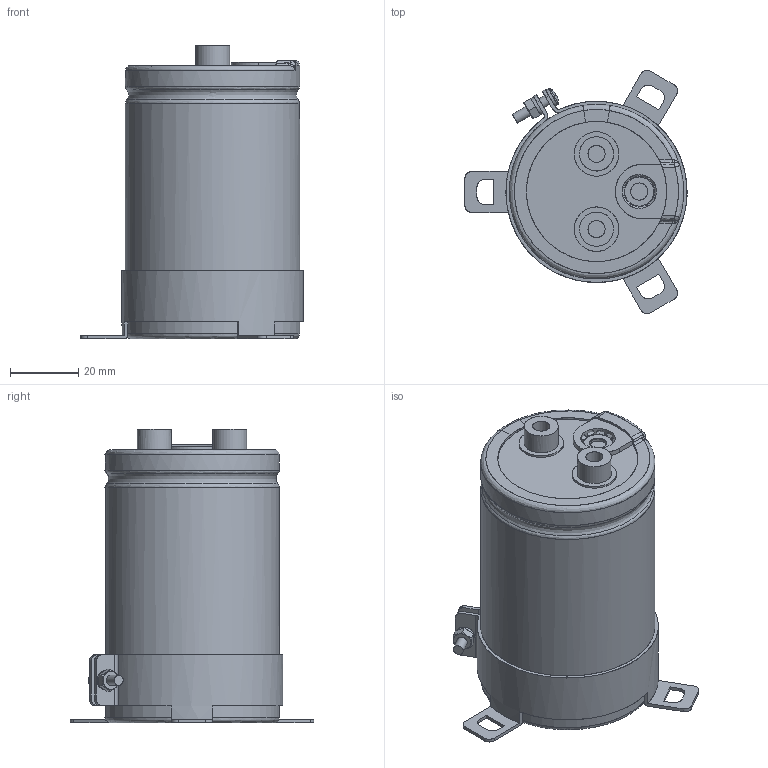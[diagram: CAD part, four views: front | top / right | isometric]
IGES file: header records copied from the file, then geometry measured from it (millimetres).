
Start section: JAMA-IS VERSION  1.0
Bounding box: 65 x 71.22 x 86 mm (x, y, z)
Surface area: 52900 mm2 (no closed solid volume)
Topology: 0 solids, 0 shells, 298 faces, 4625 edges, 4595 vertices
Faces by surface type: bspline 298
